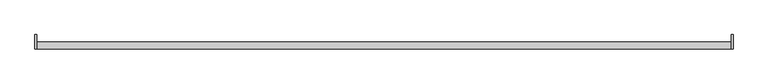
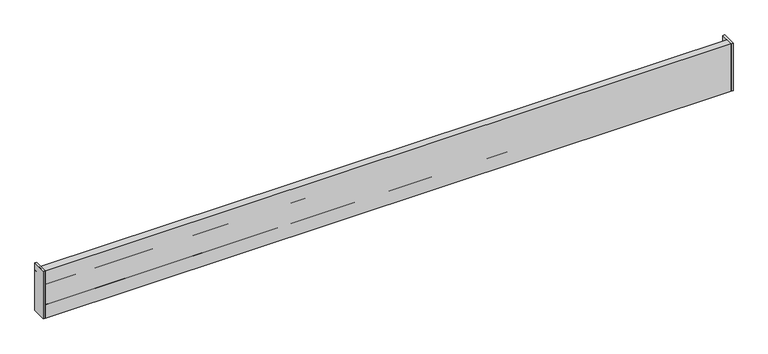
"""IFC4 building model written with IfcOpenShell, lengths in millimetres: furniture geometry."""

from ifc_helpers import new_model, si_unit, frame, origin, place, context, project, spatial, polyline, outline, extrude, source, transform, mapped, element, save


def furniture_cffa716f(model_context):
    return source(origin(), model_context, "Body", "SweptSolid", [
        extrude(outline(polyline([(-606.425, 12.6999996), (-606.425, -12.7000004), (-609.6, -12.7000004), (-609.6, 12.6999996), (-606.425, 12.6999996)])), frame((0.0, 0.0, 977.9), z_axis=(0.0, 0.0, 1.0), x_axis=(1.0, 0.0, 0.0)), (0.0, 0.0, 1.0), 88.9),
        extrude(outline(polyline([(609.6, 12.6999996), (609.6, -12.7000004), (606.425, -12.7000004), (606.425, 12.6999996), (609.6, 12.6999996)])), frame((0.0, 0.0, 977.9), z_axis=(0.0, 0.0, 1.0), x_axis=(1.0, 0.0, 0.0)), (0.0, 0.0, 1.0), 88.9),
        extrude(outline(polyline([(606.425, 0.0), (606.425, -12.7000004), (-606.425, -12.7000004), (-606.425, 0.0), (606.425, 0.0)])), frame((0.0, 0.0, 977.9), z_axis=(0.0, 0.0, 1.0), x_axis=(1.0, 0.0, 0.0)), (0.0, 0.0, 1.0), 88.9),
        extrude(outline(polyline([(-12.7000004, 1054.0999966), (-12.7000004, 1066.8), (0.0, 1066.8), (0.0, 977.9), (-12.7000004, 977.9), (-12.7000004, 1003.2999966), (-3.1750002, 1003.2999966), (-3.1750002, 1015.9999966), (-12.7000004, 1015.9999966), (-12.7000004, 1041.3999966), (-3.1750002, 1041.3999966), (-3.1750002, 1054.0999966), (-12.7000004, 1054.0999966)])), frame((-606.425, 0.0, 0.0), z_axis=(1.0, 0.0, 0.0), x_axis=(0.0, 1.0, 0.0)), (0.0, 0.0, 1.0), 1212.85),
        extrude(outline(polyline([(-12.7000004, 1066.8), (0.0, 1066.8), (0.0, 1054.0999966), (12.6999996, 1054.0999966), (12.6999996, 990.599997), (0.0, 990.599997), (0.0, 977.9), (-12.7000004, 977.9), (-12.7000004, 1066.8)])), frame((-609.6, 0.0, 0.0), z_axis=(1.0, 0.0, 0.0), x_axis=(0.0, 1.0, 0.0)), (0.0, 0.0, 1.0), 3.175),
        extrude(outline(polyline([(-12.7000004, 1066.8), (0.0, 1066.8), (0.0, 1054.0999966), (12.6999996, 1054.0999966), (12.6999996, 990.599997), (0.0, 990.599997), (0.0, 977.9), (-12.7000004, 977.9), (-12.7000004, 1066.8)])), frame((606.425, 0.0, 0.0), z_axis=(1.0, 0.0, 0.0), x_axis=(0.0, 1.0, 0.0)), (0.0, 0.0, 1.0), 3.175),
    ])


if __name__ == "__main__":
    model = new_model("IFC4")
    model_context = context("Model", 3, world=origin())
    ifc_project = project(units=[si_unit("LENGTHUNIT", "METRE", prefix="MILLI")], contexts=[model_context])
    site = spatial("IfcSite", under=ifc_project)
    building = spatial("IfcBuilding", under=site)
    placement = place(None, origin())
    furniture_shape = furniture_cffa716f(model_context)
    element("IfcFurniture", 1, ObjectType="HermanMiller_ActionOffice_A3610_ToolBar : 4\"H x 48\"W", at=placement, inside=building, context=model_context, shape_type="MappedRepresentation", body=[
        mapped(furniture_shape, transform((0.0, 0.0, 0.0), x_axis=(1.0, 0.0, 0.0), y_axis=(0.0, 1.0, 0.0), z_axis=(0.0, 0.0, 1.0))),
    ])
    save(model, "model.ifc")
